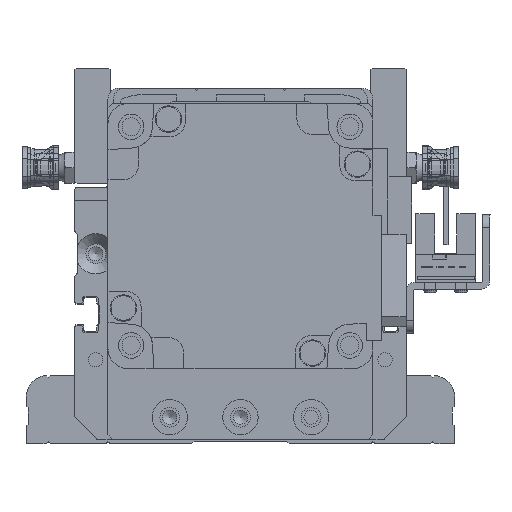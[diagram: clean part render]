
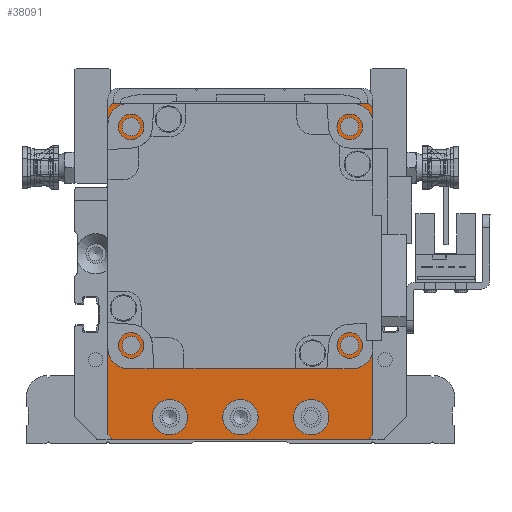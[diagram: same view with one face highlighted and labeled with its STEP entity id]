
A CAD part, front view. The second image highlights one B-rep face of the part: STEP entity #38091.
In plain terms, the highlighted planar face has unit normal (0, -1, 0) as drawn and (0, 0, 1) by its records, which use the part's own axes.
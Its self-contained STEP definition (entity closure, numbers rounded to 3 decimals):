
#1334=FACE_BOUND('',#7216,.T.);
#1335=FACE_BOUND('',#7217,.T.);
#1336=FACE_BOUND('',#7218,.T.);
#1337=FACE_BOUND('',#7219,.T.);
#1338=FACE_BOUND('',#7220,.T.);
#1339=FACE_BOUND('',#7221,.T.);
#1340=FACE_BOUND('',#7222,.T.);
#1341=FACE_BOUND('',#7223,.T.);
#2426=PLANE('',#42474);
#4887=FACE_OUTER_BOUND('',#7215,.T.);
#7215=EDGE_LOOP('',(#33733,#33734,#33735,#33736,#33737,#33738,#33739,#33740));
#7216=EDGE_LOOP('',(#33741));
#7217=EDGE_LOOP('',(#33742));
#7218=EDGE_LOOP('',(#33743));
#7219=EDGE_LOOP('',(#33744));
#7220=EDGE_LOOP('',(#33745));
#7221=EDGE_LOOP('',(#33746));
#7222=EDGE_LOOP('',(#33747));
#7223=EDGE_LOOP('',(#33748));
#10085=LINE('',#66070,#13071);
#10087=LINE('',#66074,#13073);
#10090=LINE('',#66080,#13076);
#10091=LINE('',#66082,#13077);
#10092=LINE('',#66084,#13078);
#10093=LINE('',#66086,#13079);
#10094=LINE('',#66088,#13080);
#10095=LINE('',#66089,#13081);
#13071=VECTOR('',#52230,10.);
#13073=VECTOR('',#52234,10.);
#13076=VECTOR('',#52239,10.);
#13077=VECTOR('',#52240,10.);
#13078=VECTOR('',#52241,10.);
#13079=VECTOR('',#52242,10.);
#13080=VECTOR('',#52243,10.);
#13081=VECTOR('',#52244,10.);
#15340=CIRCLE('',#42475,25.);
#15341=CIRCLE('',#42476,2.067);
#15342=CIRCLE('',#42477,2.067);
#15343=CIRCLE('',#42478,2.067);
#15344=CIRCLE('',#42479,2.067);
#15345=CIRCLE('',#42480,4.);
#15346=CIRCLE('',#42481,4.);
#15347=CIRCLE('',#42482,4.);
#18739=VERTEX_POINT('',#66067);
#18740=VERTEX_POINT('',#66069);
#18741=VERTEX_POINT('',#66073);
#18743=VERTEX_POINT('',#66079);
#18744=VERTEX_POINT('',#66081);
#18745=VERTEX_POINT('',#66083);
#18746=VERTEX_POINT('',#66085);
#18747=VERTEX_POINT('',#66087);
#18748=VERTEX_POINT('',#66090);
#18749=VERTEX_POINT('',#66092);
#18750=VERTEX_POINT('',#66094);
#18751=VERTEX_POINT('',#66096);
#18752=VERTEX_POINT('',#66098);
#18753=VERTEX_POINT('',#66100);
#18754=VERTEX_POINT('',#66102);
#18755=VERTEX_POINT('',#66104);
#23880=EDGE_CURVE('',#18740,#18739,#10085,.T.);
#23882=EDGE_CURVE('',#18740,#18741,#10087,.T.);
#23885=EDGE_CURVE('',#18743,#18739,#10090,.T.);
#23886=EDGE_CURVE('',#18743,#18744,#10091,.T.);
#23887=EDGE_CURVE('',#18745,#18744,#10092,.T.);
#23888=EDGE_CURVE('',#18745,#18746,#10093,.T.);
#23889=EDGE_CURVE('',#18747,#18746,#10094,.T.);
#23890=EDGE_CURVE('',#18747,#18741,#10095,.T.);
#23891=EDGE_CURVE('',#18748,#18748,#15340,.T.);
#23892=EDGE_CURVE('',#18749,#18749,#15341,.T.);
#23893=EDGE_CURVE('',#18750,#18750,#15342,.T.);
#23894=EDGE_CURVE('',#18751,#18751,#15343,.T.);
#23895=EDGE_CURVE('',#18752,#18752,#15344,.T.);
#23896=EDGE_CURVE('',#18753,#18753,#15345,.T.);
#23897=EDGE_CURVE('',#18754,#18754,#15346,.T.);
#23898=EDGE_CURVE('',#18755,#18755,#15347,.T.);
#33733=ORIENTED_EDGE('',*,*,#23882,.F.);
#33734=ORIENTED_EDGE('',*,*,#23880,.T.);
#33735=ORIENTED_EDGE('',*,*,#23885,.F.);
#33736=ORIENTED_EDGE('',*,*,#23886,.T.);
#33737=ORIENTED_EDGE('',*,*,#23887,.F.);
#33738=ORIENTED_EDGE('',*,*,#23888,.T.);
#33739=ORIENTED_EDGE('',*,*,#23889,.F.);
#33740=ORIENTED_EDGE('',*,*,#23890,.T.);
#33741=ORIENTED_EDGE('',*,*,#23891,.T.);
#33742=ORIENTED_EDGE('',*,*,#23892,.T.);
#33743=ORIENTED_EDGE('',*,*,#23893,.T.);
#33744=ORIENTED_EDGE('',*,*,#23894,.T.);
#33745=ORIENTED_EDGE('',*,*,#23895,.T.);
#33746=ORIENTED_EDGE('',*,*,#23896,.T.);
#33747=ORIENTED_EDGE('',*,*,#23897,.T.);
#33748=ORIENTED_EDGE('',*,*,#23898,.T.);
#38091=ADVANCED_FACE('',(#4887,#1334,#1335,#1336,#1337,#1338,#1339,#1340,
#1341),#2426,.T.);
#42474=AXIS2_PLACEMENT_3D('',#66078,#52237,#52238);
#42475=AXIS2_PLACEMENT_3D('',#66091,#52245,#52246);
#42476=AXIS2_PLACEMENT_3D('',#66093,#52247,#52248);
#42477=AXIS2_PLACEMENT_3D('',#66095,#52249,#52250);
#42478=AXIS2_PLACEMENT_3D('',#66097,#52251,#52252);
#42479=AXIS2_PLACEMENT_3D('',#66099,#52253,#52254);
#42480=AXIS2_PLACEMENT_3D('',#66101,#52255,#52256);
#42481=AXIS2_PLACEMENT_3D('',#66103,#52257,#52258);
#42482=AXIS2_PLACEMENT_3D('',#66105,#52259,#52260);
#52230=DIRECTION('',(1.,0.,0.));
#52234=DIRECTION('',(-0.707,0.707,0.));
#52237=DIRECTION('center_axis',(0.,0.,1.));
#52238=DIRECTION('ref_axis',(1.,0.,0.));
#52239=DIRECTION('',(-0.707,-0.707,0.));
#52240=DIRECTION('',(0.,1.,0.));
#52241=DIRECTION('',(0.707,-0.707,0.));
#52242=DIRECTION('',(-1.,0.,0.));
#52243=DIRECTION('',(0.707,0.707,0.));
#52244=DIRECTION('',(0.,-1.,0.));
#52245=DIRECTION('center_axis',(0.,0.,-1.));
#52246=DIRECTION('ref_axis',(1.,0.,0.));
#52247=DIRECTION('center_axis',(0.,0.,-1.));
#52248=DIRECTION('ref_axis',(1.,0.,0.));
#52249=DIRECTION('center_axis',(0.,0.,-1.));
#52250=DIRECTION('ref_axis',(1.,0.,0.));
#52251=DIRECTION('center_axis',(0.,0.,-1.));
#52252=DIRECTION('ref_axis',(1.,0.,0.));
#52253=DIRECTION('center_axis',(0.,0.,-1.));
#52254=DIRECTION('ref_axis',(1.,0.,0.));
#52255=DIRECTION('center_axis',(0.,0.,-1.));
#52256=DIRECTION('ref_axis',(1.,0.,0.));
#52257=DIRECTION('center_axis',(0.,0.,-1.));
#52258=DIRECTION('ref_axis',(1.,0.,0.));
#52259=DIRECTION('center_axis',(0.,0.,-1.));
#52260=DIRECTION('ref_axis',(1.,0.,0.));
#66067=CARTESIAN_POINT('',(29.,-38.,59.));
#66069=CARTESIAN_POINT('',(-29.,-38.,59.));
#66070=CARTESIAN_POINT('',(-30.,-38.,59.));
#66073=CARTESIAN_POINT('',(-30.,-37.,59.));
#66074=CARTESIAN_POINT('',(-31.5,-35.5,59.));
#66078=CARTESIAN_POINT('Origin',(0.,0.,
59.));
#66079=CARTESIAN_POINT('',(30.,-37.,59.));
#66080=CARTESIAN_POINT('',(31.5,-35.5,59.));
#66081=CARTESIAN_POINT('',(30.,37.,59.));
#66082=CARTESIAN_POINT('',(30.,-38.,59.));
#66083=CARTESIAN_POINT('',(29.,38.,59.));
#66084=CARTESIAN_POINT('',(31.5,35.5,59.));
#66085=CARTESIAN_POINT('',(-29.,38.,59.));
#66086=CARTESIAN_POINT('',(30.,38.,59.));
#66087=CARTESIAN_POINT('',(-30.,37.,59.));
#66088=CARTESIAN_POINT('',(-31.5,35.5,59.));
#66089=CARTESIAN_POINT('',(-30.,38.,59.));
#66090=CARTESIAN_POINT('',(-25.,8.,59.));
#66091=CARTESIAN_POINT('Origin',(0.,8.,59.));
#66092=CARTESIAN_POINT('',(22.682,-16.749,59.));
#66093=CARTESIAN_POINT('Origin',(24.749,-16.749,59.));
#66094=CARTESIAN_POINT('',(22.682,32.749,59.));
#66095=CARTESIAN_POINT('Origin',(24.749,32.749,59.));
#66096=CARTESIAN_POINT('',(-26.816,32.749,59.));
#66097=CARTESIAN_POINT('Origin',(-24.749,32.749,59.));
#66098=CARTESIAN_POINT('',(-26.816,-16.749,59.));
#66099=CARTESIAN_POINT('Origin',(-24.749,-16.749,59.));
#66100=CARTESIAN_POINT('',(12.,-33.,59.));
#66101=CARTESIAN_POINT('Origin',(16.,-33.,59.));
#66102=CARTESIAN_POINT('',(-4.,-33.,59.));
#66103=CARTESIAN_POINT('Origin',(0.,-33.,59.));
#66104=CARTESIAN_POINT('',(-20.,-33.,59.));
#66105=CARTESIAN_POINT('Origin',(-16.,-33.,59.));
